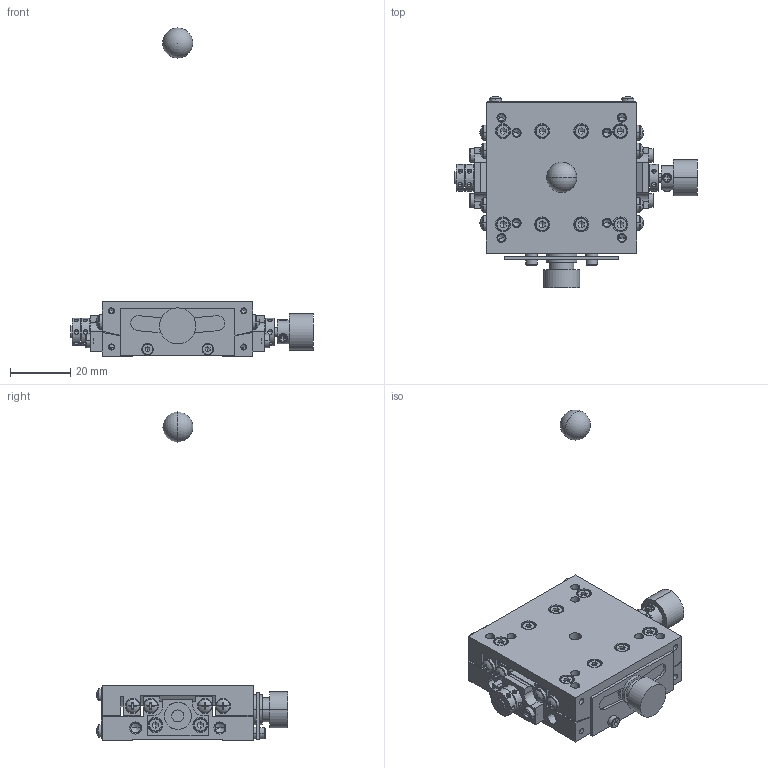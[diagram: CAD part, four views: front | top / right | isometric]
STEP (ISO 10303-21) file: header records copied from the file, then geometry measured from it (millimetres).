
FILE_DESCRIPTION (( 'STEP AP203' ), '1' );
FILE_NAME ('SH05B-RB-R.STEP', '2016-09-28T08:23:04', ( '' ), ( '' ), 'SwSTEP 2.0', 'SolidWorks 2011', '' );
FILE_SCHEMA (( 'CONFIG_CONTROL_DESIGN' ));
Length unit declared in the file: millimetre
Products named in the file (4): SH05B-RB-R; base-1; table-1; rotation-center-1
Assembly tree (3 placements, depth 2):
  SH05B-RB-R
    rotation-center-1
    table-1
    base-1
Bounding box: 80.5 x 63.59 x 109 mm (x, y, z)
Volume: 43630.8 mm3; surface area: 26331.2 mm2
Topology: 3 solids, 43 shells, 1927 faces, 4664 edges, 2818 vertices
Faces by surface type: plane 934, cylinder 624, cone 257, torus 80, sphere 26, bspline 6
Entity records: 59386 total; most frequent: CARTESIAN_POINT 13883, DIRECTION 9823, ORIENTED_EDGE 9038, EDGE_CURVE 4519, AXIS2_PLACEMENT_3D 3659, VERTEX_POINT 2815, VECTOR 2505, LINE 2505
